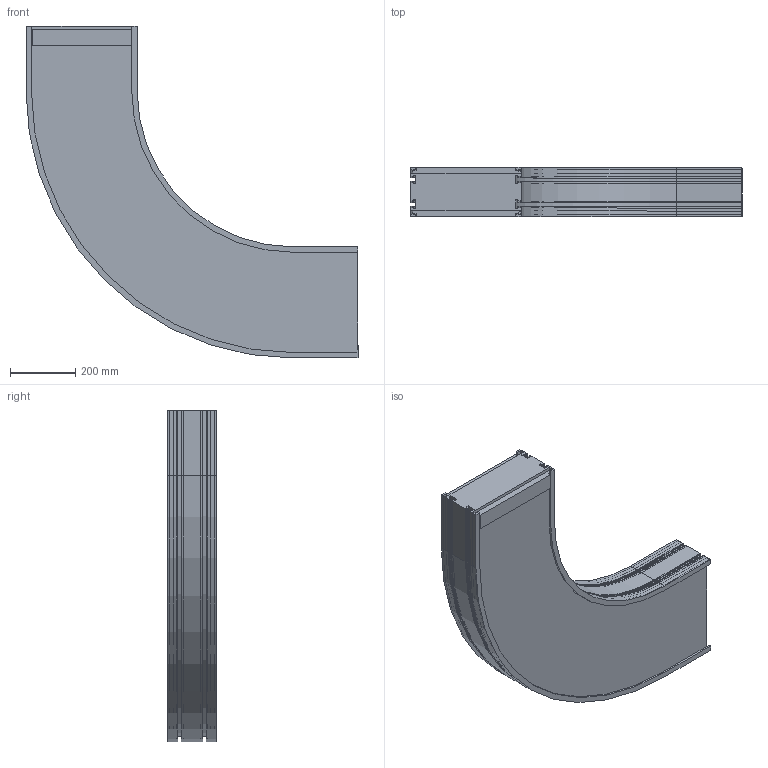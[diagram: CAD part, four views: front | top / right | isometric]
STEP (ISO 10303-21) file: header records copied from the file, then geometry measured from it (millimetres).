
FILE_DESCRIPTION (( 'STEP AP203' ), '1' );
FILE_NAME ('F2-1200-C90.STEP', '2009-01-23T07:50:28', ( 'faber' ), ( '' ), 'SwSTEP 2.0', 'SolidWorks 2008', '' );
FILE_SCHEMA (( 'CONFIG_CONTROL_DESIGN' ));
Length unit declared in the file: millimetre
Products named in the file (3): F2-1200-C90; Courbe_  1200; Tapis_1200
Assembly tree (3 placements, depth 2):
  F2-1200-C90
    Tapis_1200  x2
    Courbe_  1200
Bounding box: 1021 x 152.88 x 1021 mm (x, y, z)
Volume: 55307640.2 mm3; surface area: 2304792.3 mm2
Topology: 3 solids, 3 shells, 190 faces, 552 edges, 368 vertices
Faces by surface type: plane 148, cylinder 42
Entity records: 6273 total; most frequent: CARTESIAN_POINT 1066, ORIENTED_EDGE 1056, DIRECTION 984, EDGE_CURVE 528, VECTOR 444, LINE 444, VERTEX_POINT 352, AXIS2_PLACEMENT_3D 270
